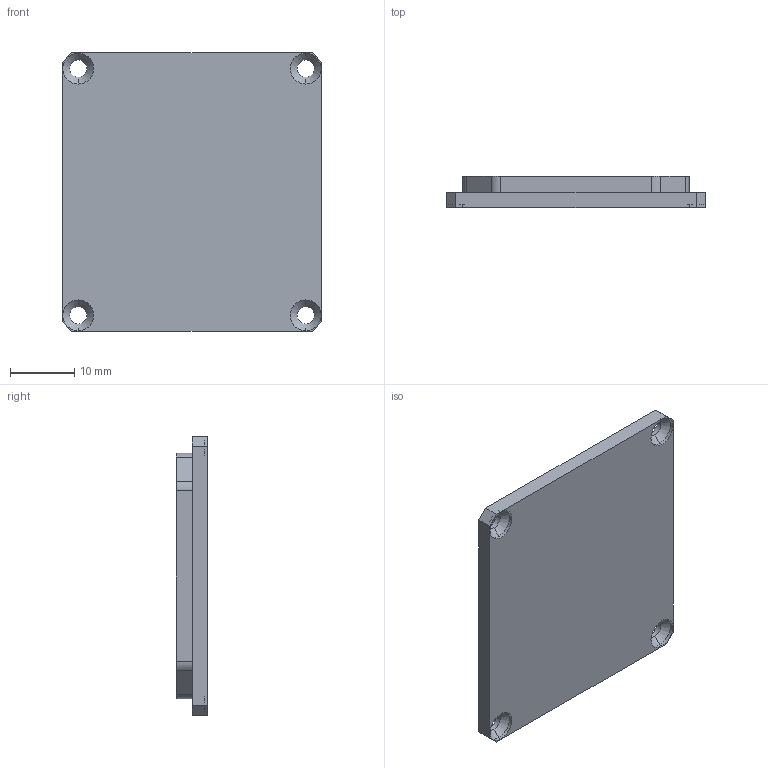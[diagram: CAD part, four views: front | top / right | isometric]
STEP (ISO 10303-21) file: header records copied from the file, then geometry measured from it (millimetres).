
FILE_DESCRIPTION(/* description */ ('VariCAD 2008 3.04 AP-203'),/* implementation_level */ '2;1');
FILE_NAME(/* name */ '0353-12-12',/* time_stamp */ '2009-03-19T17:00:38-06:00',/* author */ (''),/* organization */ (''),/* preprocessor_version */ 'ST-DEVELOPER v12',/* originating_system */ 'VariCAD 2008 3.04; kernel version (20080715)',/* authorisation */ '');
FILE_SCHEMA (('CONFIG_CONTROL_DESIGN'));
Length unit declared in the file: millimetre
Products named in the file (1): Part
Bounding box: 40.5 x 4.9 x 43.5 mm (x, y, z)
Volume: 7367.4 mm3; surface area: 4279.9 mm2
Topology: 1 solids, 1 shells, 51 faces, 136 edges, 88 vertices
Faces by surface type: cylinder 24, plane 19, cone 8
Entity records: 1664 total; most frequent: DIRECTION 298, CARTESIAN_POINT 277, ORIENTED_EDGE 272, EDGE_CURVE 136, AXIS2_PLACEMENT_3D 109, VERTEX_POINT 88, LINE 80, VECTOR 80
